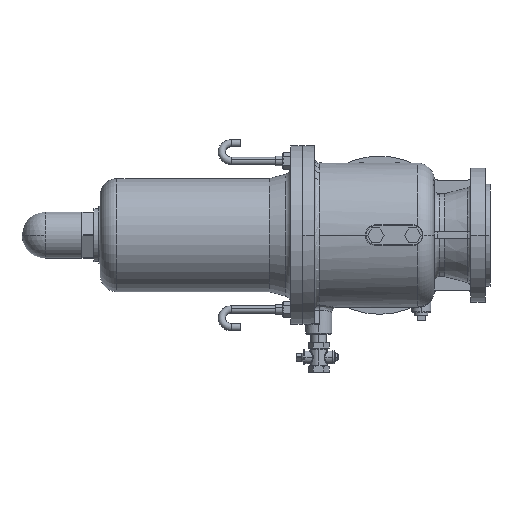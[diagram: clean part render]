
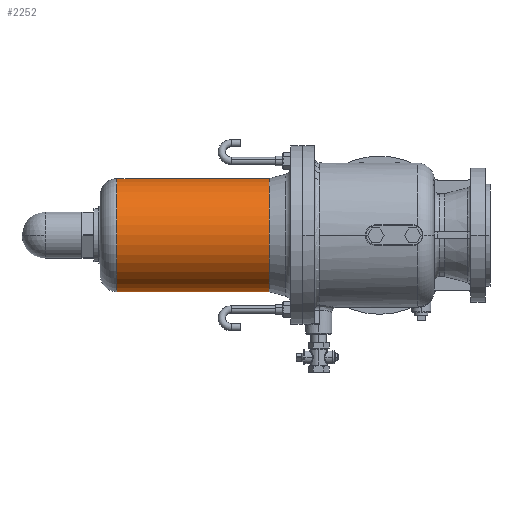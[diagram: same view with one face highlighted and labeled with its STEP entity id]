
A CAD part, left-side view. The second image highlights one B-rep face of the part: STEP entity #2252.
In plain terms, the highlighted cylindrical face has radius 118 mm (diameter 236 mm), a partial arc.
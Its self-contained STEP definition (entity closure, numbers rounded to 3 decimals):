
#475 = AXIS2_PLACEMENT_3D ( 'NONE', #14654, #2600, #7955 ) ;
#1019 = ORIENTED_EDGE ( 'NONE', *, *, #17088, .T. ) ;
#1304 = DIRECTION ( 'NONE',  ( 0., 1., 0. ) ) ;
#1310 = CIRCLE ( 'NONE', #5215, 118. ) ;
#2252 = ADVANCED_FACE ( 'NONE', ( #9192 ), #13071, .T. ) ;
#2403 = VECTOR ( 'NONE', #16078, 1000. ) ;
#2487 = AXIS2_PLACEMENT_3D ( 'NONE', #8055, #1304, #16075 ) ;
#2587 = VECTOR ( 'NONE', #9137, 1000. ) ;
#2600 = DIRECTION ( 'NONE',  ( 0., 1., 0. ) ) ;
#3768 = CARTESIAN_POINT ( 'NONE',  ( 0., 593.48, 118. ) ) ;
#4405 = VERTEX_POINT ( 'NONE', #7372 ) ;
#4441 = VERTEX_POINT ( 'NONE', #15122 ) ;
#5070 = DIRECTION ( 'NONE',  ( 0., 0., 1. ) ) ;
#5215 = AXIS2_PLACEMENT_3D ( 'NONE', #14485, #5238, #5070 ) ;
#5238 = DIRECTION ( 'NONE',  ( 0., 1., 0. ) ) ;
#6807 = CARTESIAN_POINT ( 'NONE',  ( 0., 547.5, 118. ) ) ;
#7112 = ORIENTED_EDGE ( 'NONE', *, *, #16202, .F. ) ;
#7372 = CARTESIAN_POINT ( 'NONE',  ( 0., 547.5, -118. ) ) ;
#7955 = DIRECTION ( 'NONE',  ( 0., 0., 1. ) ) ;
#8055 = CARTESIAN_POINT ( 'NONE',  ( 0., 547.5, 0. ) ) ;
#8822 = EDGE_CURVE ( 'NONE', #11605, #9648, #10810, .T. ) ;
#9137 = DIRECTION ( 'NONE',  ( 0., 1., 0. ) ) ;
#9192 = FACE_OUTER_BOUND ( 'NONE', #14481, .T. ) ;
#9472 = CARTESIAN_POINT ( 'NONE',  ( 0., 593.48, -118. ) ) ;
#9648 = VERTEX_POINT ( 'NONE', #6807 ) ;
#9881 = LINE ( 'NONE', #9472, #2403 ) ;
#10131 = CARTESIAN_POINT ( 'NONE',  ( 0., 230.285, 118. ) ) ;
#10810 = LINE ( 'NONE', #3768, #2587 ) ;
#11605 = VERTEX_POINT ( 'NONE', #10131 ) ;
#13071 = CYLINDRICAL_SURFACE ( 'NONE', #475, 118. ) ;
#13172 = CIRCLE ( 'NONE', #2487, 118. ) ;
#13250 = EDGE_CURVE ( 'NONE', #4405, #9648, #13172, .T. ) ;
#14481 = EDGE_LOOP ( 'NONE', ( #7112, #1019, #17271, #16274 ) ) ;
#14485 = CARTESIAN_POINT ( 'NONE',  ( 0., 230.285, 0. ) ) ;
#14654 = CARTESIAN_POINT ( 'NONE',  ( 0., 593.48, 0. ) ) ;
#15122 = CARTESIAN_POINT ( 'NONE',  ( 0., 230.285, -118. ) ) ;
#16075 = DIRECTION ( 'NONE',  ( 0., 0., 1. ) ) ;
#16078 = DIRECTION ( 'NONE',  ( 0., 1., 0. ) ) ;
#16202 = EDGE_CURVE ( 'NONE', #4441, #4405, #9881, .T. ) ;
#16274 = ORIENTED_EDGE ( 'NONE', *, *, #13250, .F. ) ;
#17088 = EDGE_CURVE ( 'NONE', #4441, #11605, #1310, .T. ) ;
#17271 = ORIENTED_EDGE ( 'NONE', *, *, #8822, .T. ) ;
